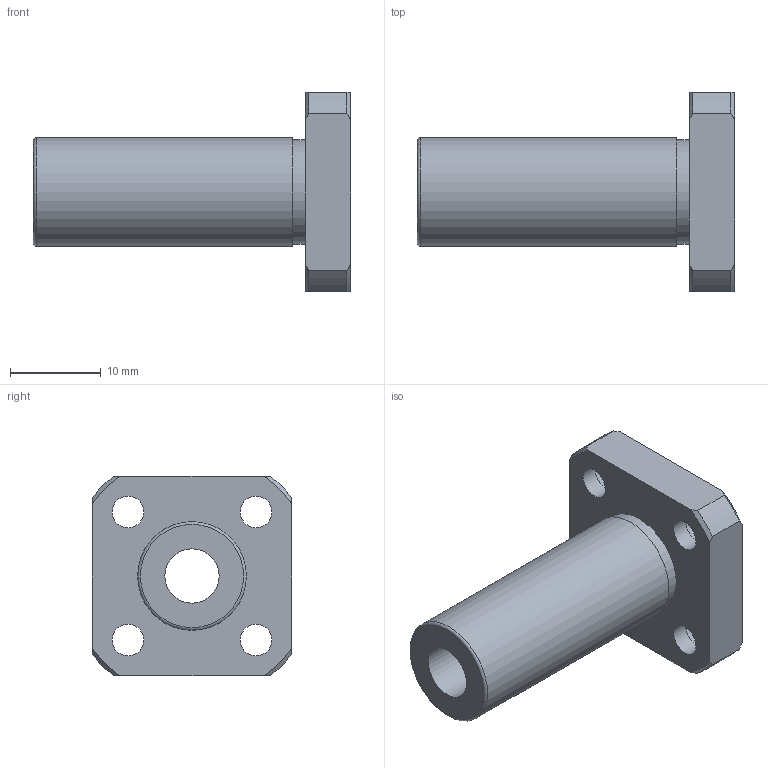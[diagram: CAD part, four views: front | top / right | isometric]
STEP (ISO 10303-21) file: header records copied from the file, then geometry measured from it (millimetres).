
FILE_DESCRIPTION(('STEP AP203'),'1');
FILE_NAME('//192.168.1.1/share/s-4 技術開発/s-4-4_CAD/s-4-4-3_見直し済み/002 修正済み/NFES-VL/NFES-VL_TOP/NFES-6VLUU.step','2022-03-08T00:55:56',(' '),(' '),'Spatial InterOp 3D',' ',' ');
FILE_SCHEMA(('CONFIG_CONTROL_DESIGN'));
Length unit declared in the file: millimetre
Products named in the file (1): 1
Bounding box: 35 x 22 x 22 mm (x, y, z)
Volume: 4333.2 mm3; surface area: 3338.7 mm2
Topology: 1 solids, 1 shells, 36 faces, 91 edges, 63 vertices
Faces by surface type: cylinder 15, plane 12, cone 8, torus 1
Full cylindrical faces by diameter (mm): 3.5 x4, 6 x5, 11.5 x1, 12 x1
Entity records: 1058 total; most frequent: CARTESIAN_POINT 211, DIRECTION 168, ORIENTED_EDGE 142, AXIS2_PLACEMENT_3D 76, EDGE_CURVE 71, EDGE_LOOP 64, VERTEX_POINT 55, FACE_OUTER_BOUND 48
